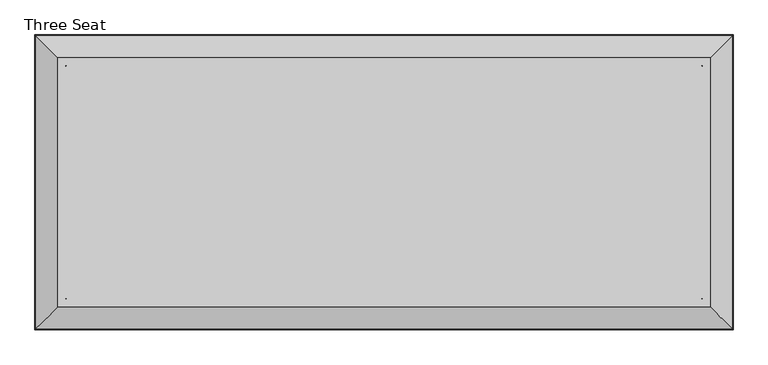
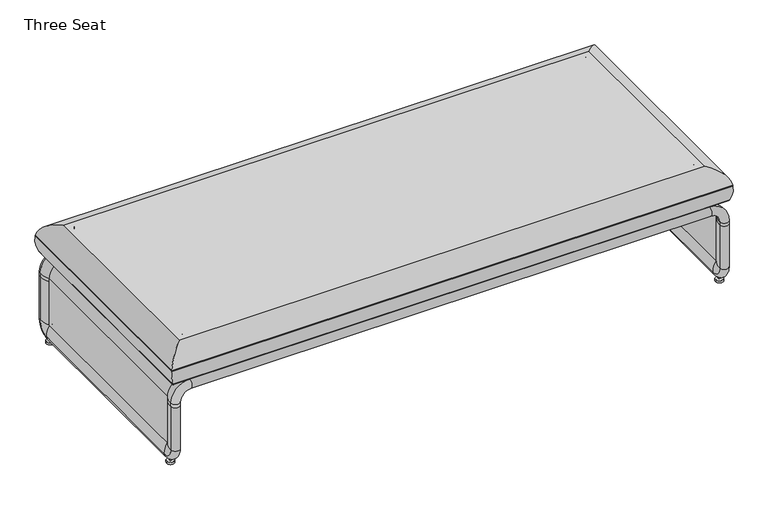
"""IFC4 building model written with IfcOpenShell, lengths in millimetres: furniture geometry, Coalesse_AM_Seating_LoungeChair_Lagunitas_Bench : Three Seat."""

from ifc_helpers import new_model, si_unit, point, frame, frame_2d, origin, origin_with_axes, place, context, project, spatial, polyline, circle_curve, ellipse_curve, trimmed, segment, composite_curve, outline, extrude, source, transform, mapped, element, save
from ifc_brep_helpers import plane_surface, cylinder_surface, revolved_surface, advanced_brep


def three_seat_fe4ea9a4(model_context):
    return source(origin(), model_context, "Body", "SolidModel", [
        advanced_brep(
        [(425.0667098, 331.7027048, 308.3159554), (425.0667098, 331.7027048, 423.1505158), (424.3047098, 331.7027048, 423.1505158), (424.3047098, 331.7027048, 308.3159554), (-1352.2104971, 331.7027048, 423.1505158), (-1352.2104971, 331.7027048, 308.3159554), (-1351.4484971, 331.7027048, 308.3159554), (-1351.4484971, 331.7027048, 423.1505158), (502.9448065, 409.5808014, 313.8220641), (494.5614234, 401.1974183, 308.3159554), (-1421.7052106, 401.1974183, 308.3159554), (-1430.0885937, 409.5808014, 313.8220641), (-1437.7967459, 417.2889536, 366.6638866), (510.6529586, 417.2889536, 366.6638866), (-1437.3399768, 416.8321845, 370.0179265), (510.1961895, 416.8321845, 370.0179265), (-1375.456588, 354.9487957, 423.1505158), (448.3128008, 354.9487957, 423.1505158), (-1352.2104971, 330.9407048, 423.1505158), (-1352.2104971, 330.9407048, 308.3159554), (-1352.2104971, -319.1854727, 423.1505158), (-1352.2104971, -319.1854727, 308.3159554), (-1352.2104971, -318.4234727, 308.3159554), (-1352.2104971, -318.4234727, 423.1505158), (-1421.7052106, -388.6801863, 308.3159554), (-1430.0885937, -397.0635693, 313.8220641), (-1437.7967459, -404.7717215, 366.6638866), (-1437.3399768, -404.3149524, 370.0179265), (-1375.456588, -342.4315637, 423.1505158), (-1351.4484971, -319.1854727, 423.1505158), (-1351.4484971, -319.1854727, 308.3159554), (425.0667098, -319.1854727, 423.1505158), (425.0667098, -319.1854727, 308.3159554), (424.3047098, -319.1854727, 308.3159554), (424.3047098, -319.1854727, 423.1505158), (494.5614234, -388.6801863, 308.3159554), (502.9448065, -397.0635693, 313.8220641), (510.6529586, -404.7717215, 366.6638866), (510.1961895, -404.3149524, 370.0179265), (448.3128008, -342.4315637, 423.1505158), (425.0667098, 330.9407048, 308.3159554), (425.0667098, 330.9407048, 423.1505158), (425.0667098, -318.4234727, 423.1505158), (425.0667098, -318.4234727, 308.3159554)],
        [
            (0, 1),
            (1, 2),
            (2, 3),
            (3, 0),
            (4, 5),
            (5, 6),
            (6, 7),
            (7, 4),
            (8, 9, ellipse_curve(frame((494.5614234, 401.1974183, 317.4511134), z_axis=(-0.7071067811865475, 0.7071067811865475, 0.0), x_axis=(0.7071067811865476, 0.7071067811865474, 0.0)), 12.9190643, 9.135158)),
            (9, 10),
            (10, 11, ellipse_curve(frame((-1421.7052106, 401.1974183, 317.4511134), z_axis=(0.7071067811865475, 0.7071067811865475, 0.0), x_axis=(0.7071067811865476, -0.7071067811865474, 0.0)), 12.9190643, 9.135158)),
            (11, 8),
            (11, 12, ellipse_curve(frame((-1336.0753091, 315.5675168, 354.5191011), z_axis=(0.7071067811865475, 0.7071067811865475, 0.0), x_axis=(0.7071067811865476, -0.7071067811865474, 0.0)), 144.8775104, 102.44387)),
            (12, 13),
            (13, 8, ellipse_curve(frame((408.9315219, 315.5675168, 354.5191011), z_axis=(-0.7071067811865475, 0.7071067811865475, 0.0), x_axis=(0.7071067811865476, 0.7071067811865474, 0.0)), 144.8775104, 102.44387)),
            (12, 14, ellipse_curve(frame((-1336.0753091, 315.5675168, 354.5191011), z_axis=(0.7071067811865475, 0.7071067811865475, 0.0), x_axis=(0.7071067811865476, -0.7071067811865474, 0.0)), 144.8775104, 102.44387)),
            (14, 15),
            (15, 13, ellipse_curve(frame((408.9315219, 315.5675168, 354.5191011), z_axis=(-0.7071067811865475, 0.7071067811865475, 0.0), x_axis=(0.7071067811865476, 0.7071067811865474, 0.0)), 144.8775104, 102.44387)),
            (14, 16, ellipse_curve(frame((-1375.456588, 354.9487957, 360.5465101), z_axis=(0.7071067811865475, 0.7071067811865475, 0.0), x_axis=(0.7071067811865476, -0.7071067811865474, 0.0)), 88.535434, 62.6040057)),
            (16, 17),
            (17, 15, ellipse_curve(frame((448.3128008, 354.9487957, 360.5465101), z_axis=(-0.7071067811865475, 0.7071067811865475, 0.0), x_axis=(0.7071067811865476, 0.7071067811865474, 0.0)), 88.535434, 62.6040057)),
            (4, 18),
            (18, 19),
            (19, 5),
            (20, 21),
            (21, 22),
            (22, 23),
            (23, 20),
            (10, 24),
            (24, 25, ellipse_curve(frame((-1421.7052106, -388.6801863, 317.4511134), z_axis=(-0.7071067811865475, 0.7071067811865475, 0.0), x_axis=(0.7071067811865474, 0.7071067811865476, 0.0)), 12.9190643, 9.135158)),
            (25, 11),
            (25, 26, ellipse_curve(frame((-1336.0753091, -303.0502848, 354.5191011), z_axis=(-0.7071067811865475, 0.7071067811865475, 0.0), x_axis=(0.7071067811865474, 0.7071067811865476, 0.0)), 144.8775104, 102.44387)),
            (26, 12),
            (26, 27, ellipse_curve(frame((-1336.0753091, -303.0502848, 354.5191011), z_axis=(-0.7071067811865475, 0.7071067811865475, 0.0), x_axis=(0.7071067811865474, 0.7071067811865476, 0.0)), 144.8775104, 102.44387)),
            (27, 14),
            (27, 28, ellipse_curve(frame((-1375.456588, -342.4315637, 360.5465101), z_axis=(-0.7071067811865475, 0.7071067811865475, 0.0), x_axis=(0.7071067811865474, 0.7071067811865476, 0.0)), 88.535434, 62.6040057)),
            (28, 16),
            (20, 29),
            (29, 30),
            (30, 21),
            (31, 32),
            (32, 33),
            (33, 34),
            (34, 31),
            (24, 35),
            (35, 36, ellipse_curve(frame((494.5614234, -388.6801863, 317.4511134), z_axis=(-0.7071067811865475, -0.7071067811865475, 0.0), x_axis=(-0.7071067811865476, 0.7071067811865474, 0.0)), 12.9190643, 9.135158)),
            (36, 25),
            (36, 37, ellipse_curve(frame((408.9315219, -303.0502848, 354.5191011), z_axis=(-0.7071067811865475, -0.7071067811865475, 0.0), x_axis=(-0.7071067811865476, 0.7071067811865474, 0.0)), 144.8775104, 102.44387)),
            (37, 26),
            (37, 38, ellipse_curve(frame((408.9315219, -303.0502848, 354.5191011), z_axis=(-0.7071067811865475, -0.7071067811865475, 0.0), x_axis=(-0.7071067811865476, 0.7071067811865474, 0.0)), 144.8775104, 102.44387)),
            (38, 27),
            (38, 39, ellipse_curve(frame((448.3128008, -342.4315637, 360.5465101), z_axis=(-0.7071067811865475, -0.7071067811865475, 0.0), x_axis=(-0.7071067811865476, 0.7071067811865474, 0.0)), 88.535434, 62.6040057)),
            (39, 28),
            (0, 40),
            (40, 41),
            (41, 1),
            (31, 42),
            (42, 43),
            (43, 32),
            (9, 35),
            (3, 40, circle_curve(frame((424.3047098, 330.9407048, 308.3159554), z_axis=(0.0, 0.0, -1.0), x_axis=(1.0, 0.0, 0.0)), 0.762)),
            (19, 6, circle_curve(frame((-1351.4484971, 330.9407048, 308.3159554), z_axis=(0.0, 0.0, -1.0), x_axis=(1.0, 0.0, 0.0)), 0.762)),
            (30, 22, circle_curve(frame((-1351.4484971, -318.4234727, 308.3159554), z_axis=(0.0, 0.0, -1.0), x_axis=(1.0, 0.0, 0.0)), 0.762)),
            (43, 33, circle_curve(frame((424.3047098, -318.4234727, 308.3159554), z_axis=(0.0, 0.0, -1.0), x_axis=(1.0, 0.0, 0.0)), 0.762)),
            (8, 36),
            (13, 37),
            (15, 38),
            (17, 39),
            (7, 18, circle_curve(frame((-1351.4484971, 330.9407048, 423.1505158), z_axis=(0.0, 0.0, 1.0), x_axis=(1.0, 0.0, 0.0)), 0.762)),
            (23, 29, circle_curve(frame((-1351.4484971, -318.4234727, 423.1505158), z_axis=(0.0, 0.0, 1.0), x_axis=(1.0, 0.0, 0.0)), 0.762)),
            (34, 42, circle_curve(frame((424.3047098, -318.4234727, 423.1505158), z_axis=(0.0, 0.0, 1.0), x_axis=(1.0, 0.0, 0.0)), 0.762)),
            (41, 2, circle_curve(frame((424.3047098, 330.9407048, 423.1505158), z_axis=(0.0, 0.0, 1.0), x_axis=(1.0, 0.0, 0.0)), 0.762)),
        ],
        [
            plane_surface(frame((425.0667098, 331.7027048, 423.1505158), z_axis=(0.0, -1.0, 0.0), x_axis=(-1.0, 0.0, 0.0))),
            cylinder_surface(frame((425.0667098, 401.1974183, 317.4511134), z_axis=(1.0, 0.0, 0.0), x_axis=(0.0, -1.0, 0.0)), 9.135158),
            cylinder_surface(frame((425.0667098, 315.5675168, 354.5191011), z_axis=(1.0, 0.0, 0.0), x_axis=(0.0, -1.0, 0.0)), 102.44387),
            cylinder_surface(frame((425.0667098, 354.9487957, 360.5465101), z_axis=(1.0, 0.0, 0.0), x_axis=(0.0, -1.0, 0.0)), 62.6040057),
            plane_surface(frame((-1352.2104971, 331.7027048, 423.1505158), z_axis=(1.0, 0.0, 0.0), x_axis=(0.0, -1.0, 0.0))),
            cylinder_surface(frame((-1421.7052106, 331.7027048, 317.4511134), z_axis=(0.0, 1.0, 0.0), x_axis=(1.0, 0.0, 0.0)), 9.135158),
            cylinder_surface(frame((-1336.0753091, 331.7027048, 354.5191011), z_axis=(0.0, 1.0, 0.0), x_axis=(1.0, 0.0, 0.0)), 102.44387),
            cylinder_surface(frame((-1375.456588, 331.7027048, 360.5465101), z_axis=(0.0, 1.0, 0.0), x_axis=(1.0, 0.0, 0.0)), 62.6040057),
            plane_surface(frame((-1352.2104971, -319.1854727, 423.1505158), z_axis=(0.0, 1.0, 0.0), x_axis=(1.0, 0.0, 0.0))),
            cylinder_surface(frame((-1352.2104971, -388.6801863, 317.4511134), z_axis=(-1.0, 0.0, 0.0), x_axis=(0.0, 1.0, 0.0)), 9.135158),
            cylinder_surface(frame((-1352.2104971, -303.0502848, 354.5191011), z_axis=(-1.0, 0.0, 0.0), x_axis=(0.0, 1.0, 0.0)), 102.44387),
            cylinder_surface(frame((-1352.2104971, -342.4315637, 360.5465101), z_axis=(-1.0, 0.0, 0.0), x_axis=(0.0, 1.0, 0.0)), 62.6040057),
            plane_surface(frame((425.0667098, -319.1854727, 423.1505158), z_axis=(-1.0, 0.0, 0.0), x_axis=(0.0, 1.0, 0.0))),
            plane_surface(frame((425.0667098, -319.1854727, 308.3159554), z_axis=(0.0, 0.0, -1.0), x_axis=(0.0, 1.0, 0.0))),
            cylinder_surface(frame((494.5614234, -319.1854727, 317.4511134), z_axis=(0.0, -1.0, 0.0), x_axis=(-1.0, 0.0, 0.0)), 9.135158),
            cylinder_surface(frame((408.9315219, -319.1854727, 354.5191011), z_axis=(0.0, -1.0, 0.0), x_axis=(-1.0, 0.0, 0.0)), 102.44387),
            cylinder_surface(frame((448.3128008, -319.1854727, 360.5465101), z_axis=(0.0, -1.0, 0.0), x_axis=(-1.0, 0.0, 0.0)), 62.6040057),
            plane_surface(frame((448.3128008, -342.4315637, 423.1505158), z_axis=(0.0, 0.0, 1.0), x_axis=(0.0, 1.0, 0.0))),
            cylinder_surface(frame((-1351.4484971, 330.9407048, 308.3159554), z_axis=(0.0, 0.0, 1.0), x_axis=(1.0, 0.0, 0.0)), 0.762),
            cylinder_surface(frame((-1351.4484971, -318.4234727, 308.3159554), z_axis=(0.0, 0.0, 1.0), x_axis=(1.0, 0.0, 0.0)), 0.762),
            cylinder_surface(frame((424.3047098, -318.4234727, 308.3159554), z_axis=(0.0, 0.0, 1.0), x_axis=(1.0, 0.0, 0.0)), 0.762),
            cylinder_surface(frame((424.3047098, 330.9407048, 308.3159554), z_axis=(0.0, 0.0, 1.0), x_axis=(1.0, 0.0, 0.0)), 0.762),
        ],
        [
            (0, [[1, 2, 3, 4]]),
            (0, [[5, 6, 7, 8]]),
            (1, [[9, 10, 11, 12]]),
            (2, [[-12, 13, 14, 15]]),
            (2, [[-14, 16, 17, 18]]),
            (3, [[-17, 19, 20, 21]]),
            (4, [[-5, 22, 23, 24]]),
            (4, [[25, 26, 27, 28]]),
            (5, [[-11, 29, 30, 31]]),
            (6, [[-13, -31, 32, 33]]),
            (6, [[-16, -33, 34, 35]]),
            (7, [[-19, -35, 36, 37]]),
            (8, [[-25, 38, 39, 40]]),
            (8, [[41, 42, 43, 44]]),
            (9, [[-30, 45, 46, 47]]),
            (10, [[-32, -47, 48, 49]]),
            (10, [[-34, -49, 50, 51]]),
            (11, [[-36, -51, 52, 53]]),
            (12, [[-1, 54, 55, 56]]),
            (12, [[-41, 57, 58, 59]]),
            (13, [[-10, 60, -45, -29], [-4, 61, -54], [-24, 62, -6], [-40, 63, -26], [-59, 64, -42]]),
            (14, [[-9, 65, -46, -60]]),
            (15, [[-15, 66, -48, -65]]),
            (15, [[-18, 67, -50, -66]]),
            (16, [[-21, 68, -52, -67]]),
            (17, [[-20, -37, -53, -68], [-8, 69, -22], [-28, 70, -38], [-44, 71, -57], [-56, 72, -2]]),
            (18, [[-69, -7, -62, -23]]),
            (19, [[-70, -27, -63, -39]]),
            (20, [[-71, -43, -64, -58]]),
            (21, [[-72, -55, -61, -3]]),
        ],
    ),
        extrude(outline(composite_curve([segment(trimmed(circle_curve(frame_2d((490.1435798, -358.9512574)), 13.208), [point((503.3515798, -358.9512574))], [point((476.9355798, -358.9512574))], False, "CARTESIAN"), True, "CONTINUOUS"), segment(trimmed(circle_curve(frame_2d((490.1435798, -358.9512574)), 13.208), [point((476.9355798, -358.9512574))], [point((503.3515798, -358.9512574))], False, "CARTESIAN"), True, "CONTINUOUS")], self_intersect=False)), origin_with_axes(), (0.0, 0.0, 1.0), 7.9249983),
        extrude(outline(composite_curve([segment(trimmed(circle_curve(frame_2d((489.2788729, 366.0094457)), 13.208), [point((502.4868729, 366.0094457))], [point((476.0708729, 366.0094457))], False, "CARTESIAN"), True, "CONTINUOUS"), segment(trimmed(circle_curve(frame_2d((489.2788729, 366.0094457)), 13.208), [point((476.0708729, 366.0094457))], [point((502.4868729, 366.0094457))], False, "CARTESIAN"), True, "CONTINUOUS")], self_intersect=False)), origin_with_axes(), (0.0, 0.0, 1.0), 7.9249983),
        extrude(outline(composite_curve([segment(trimmed(circle_curve(frame_2d((490.0132668, 365.9413212)), 3.8556407), [point((493.8689075, 365.9413212))], [point((486.157626, 365.9413212))], False, "CARTESIAN"), True, "CONTINUOUS"), segment(trimmed(circle_curve(frame_2d((490.0132668, 365.9413212)), 3.8556407), [point((486.157626, 365.9413212))], [point((493.8689075, 365.9413212))], False, "CARTESIAN"), True, "CONTINUOUS")], self_intersect=False)), frame((0.0, 0.0, 7.9249983), z_axis=(0.0, 0.0, 1.0), x_axis=(1.0, 0.0, 0.0)), (0.0, 0.0, 1.0), 41.9053919),
        extrude(outline(composite_curve([segment(trimmed(circle_curve(frame_2d((490.0132668, -357.9586788)), 3.8556407), [point((493.8689075, -357.9586788))], [point((486.157626, -357.9586788))], False, "CARTESIAN"), True, "CONTINUOUS"), segment(trimmed(circle_curve(frame_2d((490.0132668, -357.9586788)), 3.8556407), [point((486.157626, -357.9586788))], [point((493.8689075, -357.9586788))], False, "CARTESIAN"), True, "CONTINUOUS")], self_intersect=False)), frame((0.0, 0.0, 7.9249983), z_axis=(0.0, 0.0, 1.0), x_axis=(1.0, 0.0, 0.0)), (0.0, 0.0, 1.0), 41.9053919),
        advanced_brep(
        [(-1364.817987, 361.2223108, 294.5571477), (-1364.817987, -349.3993584, 294.5571477), (439.1589928, -349.3993584, 294.5571477), (439.1589928, 361.2223108, 294.5571477), (439.1589928, 399.3471866, 304.6510848), (-1364.817987, 399.3471866, 304.6510848), (439.1589928, 399.3471866, 273.9829819), (-1364.817987, 399.3471866, 273.9829819), (439.1589928, 361.2223108, 284.076919), (-1364.817987, 361.2223108, 284.076919), (439.1589928, -349.3993584, 284.076919), (-1364.817987, -349.3993584, 284.076919), (439.1589928, -387.5242343, 273.9829819), (-1364.817987, -387.5242343, 273.9829819), (439.1589928, -387.5242343, 304.6510848), (-1364.817987, -387.5242343, 304.6510848), (-1421.0182157, -349.3993584, 227.5269902), (-1421.0182157, -349.3993584, 238.356919), (-1421.0182157, 361.2223108, 238.356919), (-1421.0182157, 361.2223108, 227.5269902), (-1421.0182157, 361.2223108, 68.7769902), (-1421.0182157, 359.9523108, 67.5069902), (-1421.0182157, -348.1293584, 67.5069902), (-1421.0182157, -349.3993584, 68.7769902), (-1431.1121528, 399.3471866, 238.356919), (-1431.1121528, 399.3471866, 227.5269902), (-1400.4440499, 399.3471866, 238.356919), (-1400.4440499, 399.3471866, 227.5269902), (-1410.537987, 361.2223108, 238.356919), (-1410.537987, 361.2223108, 227.5269902), (-1410.537987, -349.3993584, 238.356919), (-1410.537987, -349.3993584, 227.5269902), (-1410.537987, -349.3993584, 68.7769902), (-1410.537987, -348.1293832, 67.5069902), (-1410.537987, 359.9523108, 67.5069902), (-1410.537987, 361.2223108, 68.7769646), (-1400.4440499, -387.5242343, 238.356919), (-1400.4440499, -387.5242343, 227.5269902), (-1431.1121528, -387.5242343, 238.356919), (-1431.1121528, -387.5242343, 227.5269902), (-1400.4440499, -387.5242343, 68.7769902), (-1431.1121528, -387.5242343, 68.7769902), (-1400.4440499, -348.1293584, 29.3821143), (-1431.1121528, -348.1293584, 29.3821143), (-1400.4440499, 359.9523108, 29.3821143), (-1431.1121528, 359.9523108, 29.3821143), (-1400.4440499, 399.3471866, 68.7769902), (-1431.1121528, 399.3471866, 68.7769902), (495.3592216, -349.3993584, 238.356919), (495.3592216, 361.2223108, 238.356919), (505.4531586, 399.3471866, 238.356919), (474.7850557, 399.3471866, 238.356919), (484.8789928, 361.2223108, 238.356919), (484.8789928, -349.3993584, 238.356919), (474.7850557, -387.5242343, 238.356919), (505.4531586, -387.5242343, 238.356919), (495.3592216, -349.3993584, 227.5269902), (495.3592216, -349.3993584, 68.7769902), (495.3592216, -348.1293584, 67.5069902), (495.3592216, 359.9523108, 67.5069902), (495.3592216, 361.2223108, 68.7769902), (495.3592216, 361.2223108, 227.5269902), (505.4531586, 399.3471866, 227.5269902), (474.7850557, 399.3471866, 227.5269902), (484.8789928, 361.2223108, 227.5269902), (484.8789928, 361.2223108, 68.7769902), (484.8789928, 359.9523108, 67.5069902), (484.8789928, -348.1293584, 67.5069902), (484.8789928, -349.3993584, 68.7769902), (484.8789928, -349.3993584, 227.5269902), (474.7850557, -387.5242343, 227.5269902), (505.4531586, -387.5242343, 227.5269902), (474.7850557, -387.5242343, 68.7769902), (505.4531586, -387.5242343, 68.7769902), (474.7850557, -348.1293584, 29.3821143), (505.4531586, -348.1293584, 29.3821143), (474.7850557, 359.9523108, 29.3821143), (505.4531586, 359.9523108, 29.3821143), (474.7850557, 399.3471866, 68.7769902), (505.4531586, 399.3471866, 68.7769902)],
        [
            (0, 1),
            (1, 2),
            (2, 3),
            (3, 0),
            (3, 4, circle_curve(frame((439.1589928, 399.022058, 228.8331589), z_axis=(-1.0, 0.0, 0.0), x_axis=(0.0, 0.0, 1.0)), 75.818623)),
            (4, 5),
            (5, 0, circle_curve(frame((-1364.817987, 399.022058, 228.8331589), z_axis=(1.0, 0.0, 0.0), x_axis=(0.0, 0.0, 1.0)), 75.818623)),
            (4, 6, circle_curve(frame((439.1589928, 399.2814298, 289.3170334), z_axis=(-1.0, 0.0, 0.0), x_axis=(0.0, 0.0, 1.0)), 15.3341924)),
            (6, 7),
            (7, 5, circle_curve(frame((-1364.817987, 399.2814298, 289.3170334), z_axis=(1.0, 0.0, 0.0), x_axis=(0.0, 0.0, 1.0)), 15.3341924)),
            (6, 8, circle_curve(frame((439.1589928, 399.022058, 349.8009078), z_axis=(-1.0, 0.0, 0.0), x_axis=(0.0, 0.0, 1.0)), 75.818623)),
            (8, 9),
            (9, 7, circle_curve(frame((-1364.817987, 399.022058, 349.8009078), z_axis=(1.0, 0.0, 0.0), x_axis=(0.0, 0.0, 1.0)), 75.818623)),
            (8, 10),
            (10, 11),
            (11, 9),
            (10, 12, circle_curve(frame((439.1589928, -387.1991056, 349.8009078), z_axis=(-1.0, 0.0, 0.0), x_axis=(0.0, 0.0, 1.0)), 75.818623)),
            (12, 13),
            (13, 11, circle_curve(frame((-1364.817987, -387.1991056, 349.8009078), z_axis=(1.0, 0.0, 0.0), x_axis=(0.0, 0.0, 1.0)), 75.818623)),
            (12, 14, circle_curve(frame((439.1589928, -387.4584775, 289.3170334), z_axis=(-1.0, 0.0, 0.0), x_axis=(0.0, 0.0, 1.0)), 15.3341924)),
            (14, 15),
            (15, 13, circle_curve(frame((-1364.817987, -387.4584775, 289.3170334), z_axis=(1.0, 0.0, 0.0), x_axis=(0.0, 0.0, 1.0)), 15.3341924)),
            (1, 15, circle_curve(frame((-1364.817987, -387.1991056, 228.8331589), z_axis=(1.0, 0.0, 0.0), x_axis=(0.0, 0.0, 1.0)), 75.818623)),
            (14, 2, circle_curve(frame((439.1589928, -387.1991056, 228.8331589), z_axis=(-1.0, 0.0, 0.0), x_axis=(0.0, 0.0, 1.0)), 75.818623)),
            (16, 17),
            (17, 18),
            (18, 19),
            (19, 20),
            (20, 21, circle_curve(frame((-1421.0182157, 359.9523108, 68.7769902), z_axis=(-1.0, 0.0, 0.0), x_axis=(0.0, 0.0, -1.0)), 1.27)),
            (21, 22),
            (22, 23, circle_curve(frame((-1421.0182157, -348.1293584, 68.7769902), z_axis=(-1.0, 0.0, 0.0), x_axis=(0.0, -1.0, 0.0)), 1.27)),
            (23, 16),
            (18, 24, circle_curve(frame((-1355.2942269, 399.022058, 238.356919), z_axis=(0.0, 0.0, -1.0), x_axis=(-1.0, 0.0, 0.0)), 75.818623)),
            (24, 25),
            (25, 19, circle_curve(frame((-1355.2942269, 399.022058, 227.5269902), z_axis=(0.0, 0.0, 1.0), x_axis=(-1.0, 0.0, 0.0)), 75.818623)),
            (24, 26, circle_curve(frame((-1415.7781014, 399.2814298, 238.356919), z_axis=(0.0, 0.0, -1.0), x_axis=(-1.0, 0.0, 0.0)), 15.3341924)),
            (26, 27),
            (27, 25, circle_curve(frame((-1415.7781014, 399.2814298, 227.5269902), z_axis=(0.0, 0.0, 1.0), x_axis=(-1.0, 0.0, 0.0)), 15.3341924)),
            (26, 28, circle_curve(frame((-1476.2619758, 399.022058, 238.356919), z_axis=(0.0, 0.0, -1.0), x_axis=(-1.0, 0.0, 0.0)), 75.818623)),
            (28, 29),
            (29, 27, circle_curve(frame((-1476.2619758, 399.022058, 227.5269902), z_axis=(0.0, 0.0, 1.0), x_axis=(-1.0, 0.0, 0.0)), 75.818623)),
            (28, 30),
            (30, 31),
            (31, 32),
            (32, 33, circle_curve(frame((-1410.537987, -348.1293584, 68.7769902), z_axis=(1.0, 0.0, 0.0), x_axis=(0.0, -1.0, 0.0)), 1.27)),
            (33, 34),
            (34, 35, circle_curve(frame((-1410.537987, 359.9523108, 68.7769902), z_axis=(1.0, 0.0, 0.0), x_axis=(0.0, 0.0, -1.0)), 1.27)),
            (35, 29),
            (30, 36, circle_curve(frame((-1476.2619758, -387.1991056, 238.356919), z_axis=(0.0, 0.0, -1.0), x_axis=(-1.0, 0.0, 0.0)), 75.818623)),
            (36, 37),
            (37, 31, circle_curve(frame((-1476.2619758, -387.1991056, 227.5269902), z_axis=(0.0, 0.0, 1.0), x_axis=(-1.0, 0.0, 0.0)), 75.818623)),
            (36, 38, circle_curve(frame((-1415.7781014, -387.4584775, 238.356919), z_axis=(0.0, 0.0, -1.0), x_axis=(-1.0, 0.0, 0.0)), 15.3341924)),
            (38, 39),
            (39, 37, circle_curve(frame((-1415.7781014, -387.4584775, 227.5269902), z_axis=(0.0, 0.0, 1.0), x_axis=(-1.0, 0.0, 0.0)), 15.3341924)),
            (16, 39, circle_curve(frame((-1355.2942269, -387.1991056, 227.5269902), z_axis=(0.0, 0.0, 1.0), x_axis=(-1.0, 0.0, 0.0)), 75.818623)),
            (38, 17, circle_curve(frame((-1355.2942269, -387.1991056, 238.356919), z_axis=(0.0, 0.0, -1.0), x_axis=(-1.0, 0.0, 0.0)), 75.818623)),
            (0, 18, circle_curve(frame((-1364.817987, 361.2223108, 238.356919), z_axis=(0.0, -1.0, 0.0), x_axis=(-1.0, 0.0, 0.0)), 56.2002288)),
            (17, 1, circle_curve(frame((-1364.817987, -349.3993584, 238.356919), z_axis=(0.0, 1.0, 0.0), x_axis=(-1.0, 0.0, 0.0)), 56.2002288)),
            (5, 24, circle_curve(frame((-1364.817987, 399.3471866, 238.356919), z_axis=(0.0, -1.0, 0.0), x_axis=(-1.0, 0.0, 0.0)), 66.2941658)),
            (7, 26, circle_curve(frame((-1364.817987, 399.3471866, 238.356919), z_axis=(0.0, -1.0, 0.0), x_axis=(-1.0, 0.0, 0.0)), 35.6260629)),
            (9, 28, circle_curve(frame((-1364.817987, 361.2223108, 238.356919), z_axis=(0.0, -1.0, 0.0), x_axis=(-1.0, 0.0, 0.0)), 45.72)),
            (11, 30, circle_curve(frame((-1364.817987, -349.3993584, 238.356919), z_axis=(0.0, -1.0, 0.0), x_axis=(-1.0, 0.0, 0.0)), 45.72)),
            (13, 36, circle_curve(frame((-1364.817987, -387.5242343, 238.356919), z_axis=(0.0, -1.0, 0.0), x_axis=(-1.0, 0.0, 0.0)), 35.6260629)),
            (15, 38, circle_curve(frame((-1364.817987, -387.5242343, 238.356919), z_axis=(0.0, -1.0, 0.0), x_axis=(-1.0, 0.0, 0.0)), 66.2941658)),
            (37, 40),
            (40, 32, circle_curve(frame((-1476.2619758, -387.1991056, 68.7769902), z_axis=(0.0, 0.0, 1.0), x_axis=(1.0, 0.0, 0.0)), 75.818623)),
            (23, 41, circle_curve(frame((-1355.2942269, -387.1991056, 68.7769902), z_axis=(0.0, 0.0, 1.0), x_axis=(1.0, 0.0, 0.0)), 75.818623)),
            (41, 39),
            (41, 40, circle_curve(frame((-1415.7781014, -387.4584775, 68.7769902), z_axis=(0.0, 0.0, 1.0), x_axis=(1.0, 0.0, 0.0)), 15.3341924)),
            (40, 42, circle_curve(frame((-1400.4440499, -348.1293584, 68.7769902), z_axis=(1.0, 0.0, 0.0), x_axis=(0.0, -1.0, 0.0)), 39.3948758)),
            (42, 33, circle_curve(frame((-1476.2619758, -348.1293584, 29.707243), z_axis=(0.0, -1.0, 0.0), x_axis=(1.0, 0.0, 0.0)), 75.818623)),
            (22, 43, circle_curve(frame((-1355.2942269, -348.1293584, 29.707243), z_axis=(0.0, -1.0, 0.0), x_axis=(1.0, 0.0, 0.0)), 75.818623)),
            (43, 41, circle_curve(frame((-1431.1121528, -348.1293584, 68.7769902), z_axis=(-1.0, 0.0, 0.0), x_axis=(0.0, -1.0, 0.0)), 39.3948758)),
            (43, 42, circle_curve(frame((-1415.7781014, -348.1293584, 29.4478711), z_axis=(0.0, -1.0, 0.0), x_axis=(1.0, 0.0, 0.0)), 15.3341924)),
            (42, 44),
            (44, 34, circle_curve(frame((-1476.2619758, 359.9523108, 29.707243), z_axis=(0.0, -1.0, 0.0), x_axis=(1.0, 0.0, 0.0)), 75.818623)),
            (21, 45, circle_curve(frame((-1355.2942269, 359.9523108, 29.707243), z_axis=(0.0, -1.0, 0.0), x_axis=(1.0, 0.0, 0.0)), 75.818623)),
            (45, 43),
            (45, 44, circle_curve(frame((-1415.7781014, 359.9523108, 29.4478711), z_axis=(0.0, -1.0, 0.0), x_axis=(1.0, 0.0, 0.0)), 15.3341924)),
            (44, 46, circle_curve(frame((-1400.4440499, 359.9523108, 68.7769902), z_axis=(1.0, 0.0, 0.0), x_axis=(0.0, 0.0, -1.0)), 39.3948758)),
            (46, 35, circle_curve(frame((-1476.2619758, 399.022058, 68.7769902), z_axis=(0.0, 0.0, -1.0), x_axis=(1.0, 0.0, 0.0)), 75.818623)),
            (20, 47, circle_curve(frame((-1355.2942269, 399.022058, 68.7769902), z_axis=(0.0, 0.0, -1.0), x_axis=(1.0, 0.0, 0.0)), 75.818623)),
            (47, 45, circle_curve(frame((-1431.1121528, 359.9523108, 68.7769902), z_axis=(-1.0, 0.0, 0.0), x_axis=(0.0, 0.0, -1.0)), 39.3948758)),
            (47, 46, circle_curve(frame((-1415.7781014, 399.2814298, 68.7769902), z_axis=(0.0, 0.0, -1.0), x_axis=(1.0, 0.0, 0.0)), 15.3341924)),
            (46, 27),
            (25, 47),
            (2, 48, circle_curve(frame((439.1589928, -349.3993584, 238.356919), z_axis=(0.0, 1.0, 0.0), x_axis=(0.0, 0.0, 1.0)), 56.2002288)),
            (48, 49),
            (49, 3, circle_curve(frame((439.1589928, 361.2223108, 238.356919), z_axis=(0.0, -1.0, 0.0), x_axis=(0.0, 0.0, 1.0)), 56.2002288)),
            (49, 50, circle_curve(frame((429.6352328, 399.022058, 238.356919), z_axis=(0.0, 0.0, 1.0), x_axis=(1.0, 0.0, 0.0)), 75.818623)),
            (50, 4, circle_curve(frame((439.1589928, 399.3471866, 238.356919), z_axis=(0.0, -1.0, 0.0), x_axis=(0.0, 0.0, 1.0)), 66.2941658)),
            (50, 51, circle_curve(frame((490.1191072, 399.2814298, 238.356919), z_axis=(0.0, 0.0, 1.0), x_axis=(1.0, 0.0, 0.0)), 15.3341924)),
            (51, 6, circle_curve(frame((439.1589928, 399.3471866, 238.356919), z_axis=(0.0, -1.0, 0.0), x_axis=(0.0, 0.0, 1.0)), 35.6260629)),
            (51, 52, circle_curve(frame((550.6029816, 399.022058, 238.356919), z_axis=(0.0, 0.0, 1.0), x_axis=(1.0, 0.0, 0.0)), 75.818623)),
            (52, 8, circle_curve(frame((439.1589928, 361.2223108, 238.356919), z_axis=(0.0, -1.0, 0.0), x_axis=(0.0, 0.0, 1.0)), 45.72)),
            (52, 53),
            (53, 10, circle_curve(frame((439.1589928, -349.3993584, 238.356919), z_axis=(0.0, -1.0, 0.0), x_axis=(0.0, 0.0, 1.0)), 45.72)),
            (53, 54, circle_curve(frame((550.6029816, -387.1991056, 238.356919), z_axis=(0.0, 0.0, 1.0), x_axis=(1.0, 0.0, 0.0)), 75.818623)),
            (54, 12, circle_curve(frame((439.1589928, -387.5242343, 238.356919), z_axis=(0.0, -1.0, 0.0), x_axis=(0.0, 0.0, 1.0)), 35.6260629)),
            (54, 55, circle_curve(frame((490.1191072, -387.4584775, 238.356919), z_axis=(0.0, 0.0, 1.0), x_axis=(1.0, 0.0, 0.0)), 15.3341924)),
            (55, 14, circle_curve(frame((439.1589928, -387.5242343, 238.356919), z_axis=(0.0, -1.0, 0.0), x_axis=(0.0, 0.0, 1.0)), 66.2941658)),
            (55, 48, circle_curve(frame((429.6352328, -387.1991056, 238.356919), z_axis=(0.0, 0.0, 1.0), x_axis=(1.0, 0.0, 0.0)), 75.818623)),
            (48, 56),
            (56, 57),
            (57, 58, circle_curve(frame((495.3592216, -348.1293584, 68.7769902), z_axis=(1.0, 0.0, 0.0), x_axis=(0.0, -1.0, 0.0)), 1.27)),
            (58, 59),
            (59, 60, circle_curve(frame((495.3592216, 359.9523108, 68.7769902), z_axis=(1.0, 0.0, 0.0), x_axis=(0.0, 0.0, -1.0)), 1.27)),
            (60, 61),
            (61, 49),
            (61, 62, circle_curve(frame((429.6352328, 399.022058, 227.5269902), z_axis=(0.0, 0.0, 1.0), x_axis=(1.0, 0.0, 0.0)), 75.818623)),
            (62, 50),
            (62, 63, circle_curve(frame((490.1191072, 399.2814298, 227.5269902), z_axis=(0.0, 0.0, 1.0), x_axis=(1.0, 0.0, 0.0)), 15.3341924)),
            (63, 51),
            (63, 64, circle_curve(frame((550.6029816, 399.022058, 227.5269902), z_axis=(0.0, 0.0, 1.0), x_axis=(1.0, 0.0, 0.0)), 75.818623)),
            (64, 52),
            (64, 65),
            (65, 66, circle_curve(frame((484.8789928, 359.9523108, 68.7769902), z_axis=(-1.0, 0.0, 0.0), x_axis=(0.0, 0.0, -1.0)), 1.27)),
            (66, 67),
            (67, 68, circle_curve(frame((484.8789928, -348.1293584, 68.7769902), z_axis=(-1.0, 0.0, 0.0), x_axis=(0.0, -1.0, 0.0)), 1.27)),
            (68, 69),
            (69, 53),
            (69, 70, circle_curve(frame((550.6029816, -387.1991056, 227.5269902), z_axis=(0.0, 0.0, 1.0), x_axis=(1.0, 0.0, 0.0)), 75.818623)),
            (70, 54),
            (70, 71, circle_curve(frame((490.1191072, -387.4584775, 227.5269902), z_axis=(0.0, 0.0, 1.0), x_axis=(1.0, 0.0, 0.0)), 15.3341924)),
            (71, 55),
            (71, 56, circle_curve(frame((429.6352328, -387.1991056, 227.5269902), z_axis=(0.0, 0.0, 1.0), x_axis=(1.0, 0.0, 0.0)), 75.818623)),
            (68, 72, circle_curve(frame((550.6029816, -387.1991056, 68.7769902), z_axis=(0.0, 0.0, 1.0), x_axis=(-1.0, 0.0, 0.0)), 75.818623)),
            (72, 70),
            (71, 73),
            (73, 57, circle_curve(frame((429.6352328, -387.1991056, 68.7769902), z_axis=(0.0, 0.0, 1.0), x_axis=(-1.0, 0.0, 0.0)), 75.818623)),
            (72, 73, circle_curve(frame((490.1191072, -387.4584775, 68.7769902), z_axis=(0.0, 0.0, 1.0), x_axis=(-1.0, 0.0, 0.0)), 15.3341924)),
            (67, 74, circle_curve(frame((550.6029816, -348.1293584, 29.707243), z_axis=(0.0, -1.0, 0.0), x_axis=(-1.0, 0.0, 0.0)), 75.818623)),
            (74, 72, circle_curve(frame((474.7850557, -348.1293584, 68.7769902), z_axis=(-1.0, 0.0, 0.0), x_axis=(0.0, -1.0, 0.0)), 39.3948758)),
            (73, 75, circle_curve(frame((505.4531586, -348.1293584, 68.7769902), z_axis=(1.0, 0.0, 0.0), x_axis=(0.0, -1.0, 0.0)), 39.3948758)),
            (75, 58, circle_curve(frame((429.6352328, -348.1293584, 29.707243), z_axis=(0.0, -1.0, 0.0), x_axis=(-1.0, 0.0, 0.0)), 75.818623)),
            (74, 75, circle_curve(frame((490.1191072, -348.1293584, 29.4478711), z_axis=(0.0, -1.0, 0.0), x_axis=(-1.0, 0.0, 0.0)), 15.3341924)),
            (66, 76, circle_curve(frame((550.6029816, 359.9523108, 29.707243), z_axis=(0.0, -1.0, 0.0), x_axis=(-1.0, 0.0, 0.0)), 75.818623)),
            (76, 74),
            (75, 77),
            (77, 59, circle_curve(frame((429.6352328, 359.9523108, 29.707243), z_axis=(0.0, -1.0, 0.0), x_axis=(-1.0, 0.0, 0.0)), 75.818623)),
            (76, 77, circle_curve(frame((490.1191072, 359.9523108, 29.4478711), z_axis=(0.0, -1.0, 0.0), x_axis=(-1.0, 0.0, 0.0)), 15.3341924)),
            (65, 78, circle_curve(frame((550.6029816, 399.022058, 68.7769902), z_axis=(0.0, 0.0, -1.0), x_axis=(-1.0, 0.0, 0.0)), 75.818623)),
            (78, 76, circle_curve(frame((474.7850557, 359.9523108, 68.7769902), z_axis=(-1.0, 0.0, 0.0), x_axis=(0.0, 0.0, -1.0)), 39.3948758)),
            (77, 79, circle_curve(frame((505.4531586, 359.9523108, 68.7769902), z_axis=(1.0, 0.0, 0.0), x_axis=(0.0, 0.0, -1.0)), 39.3948758)),
            (79, 60, circle_curve(frame((429.6352328, 399.022058, 68.7769902), z_axis=(0.0, 0.0, -1.0), x_axis=(-1.0, 0.0, 0.0)), 75.818623)),
            (78, 79, circle_curve(frame((490.1191072, 399.2814298, 68.7769902), z_axis=(0.0, 0.0, -1.0), x_axis=(-1.0, 0.0, 0.0)), 15.3341924)),
            (63, 78),
            (79, 62),
        ],
        [
            plane_surface(frame((-1364.817987, -349.3993584, 294.5571477), z_axis=(0.0, 0.0, 1.0), x_axis=(1.0, 0.0, 0.0))),
            cylinder_surface(frame((-1364.817987, 399.022058, 228.8331589), z_axis=(-1.0, 0.0, 0.0), x_axis=(0.0, 0.0, 1.0)), 75.818623),
            cylinder_surface(frame((-1364.817987, 399.2814298, 289.3170334), z_axis=(-1.0, 0.0, 0.0), x_axis=(0.0, 0.0, 1.0)), 15.3341924),
            cylinder_surface(frame((-1364.817987, 399.022058, 349.8009078), z_axis=(-1.0, 0.0, 0.0), x_axis=(0.0, 0.0, 1.0)), 75.818623),
            plane_surface(frame((-1364.817987, 361.2223108, 284.076919), z_axis=(0.0, 0.0, -1.0), x_axis=(1.0, 0.0, 0.0))),
            cylinder_surface(frame((-1364.817987, -387.1991056, 349.8009078), z_axis=(-1.0, 0.0, 0.0), x_axis=(0.0, 0.0, 1.0)), 75.818623),
            cylinder_surface(frame((-1364.817987, -387.4584775, 289.3170334), z_axis=(-1.0, 0.0, 0.0), x_axis=(0.0, 0.0, 1.0)), 15.3341924),
            cylinder_surface(frame((-1364.817987, -387.1991056, 228.8331589), z_axis=(-1.0, 0.0, 0.0), x_axis=(0.0, 0.0, 1.0)), 75.818623),
            plane_surface(frame((-1421.0182157, -349.3993584, 227.5269902), z_axis=(-1.0, 0.0, 0.0), x_axis=(0.0, 0.0, 1.0))),
            cylinder_surface(frame((-1355.2942269, 399.022058, 227.5269902), z_axis=(0.0, 0.0, -1.0), x_axis=(-1.0, 0.0, 0.0)), 75.818623),
            cylinder_surface(frame((-1415.7781014, 399.2814298, 227.5269902), z_axis=(0.0, 0.0, -1.0), x_axis=(-1.0, 0.0, 0.0)), 15.3341924),
            cylinder_surface(frame((-1476.2619758, 399.022058, 227.5269902), z_axis=(0.0, 0.0, -1.0), x_axis=(-1.0, 0.0, 0.0)), 75.818623),
            plane_surface(frame((-1410.537987, 361.2223108, 227.5269902), z_axis=(1.0, 0.0, 0.0), x_axis=(0.0, 0.0, 1.0))),
            cylinder_surface(frame((-1476.2619758, -387.1991056, 227.5269902), z_axis=(0.0, 0.0, -1.0), x_axis=(-1.0, 0.0, 0.0)), 75.818623),
            cylinder_surface(frame((-1415.7781014, -387.4584775, 227.5269902), z_axis=(0.0, 0.0, -1.0), x_axis=(-1.0, 0.0, 0.0)), 15.3341924),
            cylinder_surface(frame((-1355.2942269, -387.1991056, 227.5269902), z_axis=(0.0, 0.0, -1.0), x_axis=(-1.0, 0.0, 0.0)), 75.818623),
            cylinder_surface(frame((-1364.817987, 450.8524852, 238.356919), z_axis=(0.0, 1.0, 0.0), x_axis=(-1.0, 0.0, 0.0)), 56.2002288),
            revolved_surface(trimmed(ellipse_curve(frame((-1355.2942269, 399.022058, 238.356919), z_axis=(0.0, 0.0, -1.0), x_axis=(-1.0, 0.0, 0.0)), 75.818623, 75.818623), [point((-1421.0182157, 361.2223108, 238.356919))], [point((-1431.1121528, 399.3471866, 238.356919))], True, "CARTESIAN"), (-1364.817987, 450.8524852, 238.356919), (0.0, 1.0, 0.0)),
            revolved_surface(trimmed(ellipse_curve(frame((-1415.7781014, 399.2814298, 238.356919), z_axis=(0.0, 0.0, -1.0), x_axis=(-1.0, 0.0, 0.0)), 15.3341924, 15.3341924), [point((-1431.1121528, 399.3471866, 238.356919))], [point((-1400.4440499, 399.3471866, 238.356919))], True, "CARTESIAN"), (-1364.817987, 450.8524852, 238.356919), (0.0, 1.0, 0.0)),
            revolved_surface(trimmed(ellipse_curve(frame((-1476.2619758, 399.022058, 238.356919), z_axis=(0.0, 0.0, -1.0), x_axis=(-1.0, 0.0, 0.0)), 75.818623, 75.818623), [point((-1400.4440499, 399.3471866, 238.356919))], [point((-1410.537987, 361.2223108, 238.356919))], True, "CARTESIAN"), (-1364.817987, 450.8524852, 238.356919), (0.0, 1.0, 0.0)),
            revolved_surface(polyline([(-1410.537987, 361.2223108, 238.356919), (-1410.537987, -349.39935840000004, 238.356919)]), (-1364.817987, 450.8524852, 238.356919), (0.0, 1.0, 0.0)),
            revolved_surface(trimmed(ellipse_curve(frame((-1476.2619758, -387.1991056, 238.356919), z_axis=(0.0, 0.0, -1.0), x_axis=(-1.0, 0.0, 0.0)), 75.818623, 75.818623), [point((-1410.537987, -349.3993584, 238.356919))], [point((-1400.4440499, -387.5242343, 238.356919))], True, "CARTESIAN"), (-1364.817987, 450.8524852, 238.356919), (0.0, 1.0, 0.0)),
            revolved_surface(trimmed(ellipse_curve(frame((-1415.7781014, -387.4584775, 238.356919), z_axis=(0.0, 0.0, -1.0), x_axis=(-1.0, 0.0, 0.0)), 15.3341924, 15.3341924), [point((-1400.4440499, -387.5242343, 238.356919))], [point((-1431.1121528, -387.5242343, 238.356919))], True, "CARTESIAN"), (-1364.817987, 450.8524852, 238.356919), (0.0, 1.0, 0.0)),
            revolved_surface(trimmed(ellipse_curve(frame((-1355.2942269, -387.1991056, 238.356919), z_axis=(0.0, 0.0, -1.0), x_axis=(-1.0, 0.0, 0.0)), 75.818623, 75.818623), [point((-1431.1121528, -387.5242343, 238.356919))], [point((-1421.0182157, -349.3993584, 238.356919))], True, "CARTESIAN"), (-1364.817987, 450.8524852, 238.356919), (0.0, 1.0, 0.0)),
            cylinder_surface(frame((-1476.2619758, -387.1991056, 227.5269902), z_axis=(0.0, 0.0, 1.0), x_axis=(1.0, 0.0, 0.0)), 75.818623),
            cylinder_surface(frame((-1355.2942269, -387.1991056, 227.5269902), z_axis=(0.0, 0.0, 1.0), x_axis=(1.0, 0.0, 0.0)), 75.818623),
            cylinder_surface(frame((-1415.7781014, -387.4584775, 227.5269902), z_axis=(0.0, 0.0, 1.0), x_axis=(1.0, 0.0, 0.0)), 15.3341924),
            revolved_surface(trimmed(ellipse_curve(frame((-1476.2619758, -387.1991056, 68.7769902), z_axis=(0.0, 0.0, 1.0), x_axis=(1.0, 0.0, 0.0)), 75.818623, 75.818623), [point((-1400.4440499, -387.5242343, 68.7769902))], [point((-1410.537987, -349.3993584, 68.7769902))], True, "CARTESIAN"), (-1437.9354971, -348.1293584, 68.7769902), (1.0, 0.0, 0.0)),
            revolved_surface(trimmed(ellipse_curve(frame((-1355.2942269, -387.1991056, 68.7769902), z_axis=(0.0, 0.0, 1.0), x_axis=(1.0, 0.0, 0.0)), 75.818623, 75.818623), [point((-1421.0182157, -349.3993584, 68.7769902))], [point((-1431.1121528, -387.5242343, 68.7769902))], True, "CARTESIAN"), (-1437.9354971, -348.1293584, 68.7769902), (1.0, 0.0, 0.0)),
            revolved_surface(trimmed(ellipse_curve(frame((-1415.7781014, -387.4584775, 68.7769902), z_axis=(0.0, 0.0, 1.0), x_axis=(1.0, 0.0, 0.0)), 15.3341924, 15.3341924), [point((-1431.1121528, -387.5242343, 68.7769902))], [point((-1400.4440499, -387.5242343, 68.7769902))], True, "CARTESIAN"), (-1437.9354971, -348.1293584, 68.7769902), (1.0, 0.0, 0.0)),
            cylinder_surface(frame((-1476.2619758, -348.1293584, 29.707243), z_axis=(0.0, -1.0, 0.0), x_axis=(1.0, 0.0, 0.0)), 75.818623),
            cylinder_surface(frame((-1355.2942269, -348.1293584, 29.707243), z_axis=(0.0, -1.0, 0.0), x_axis=(1.0, 0.0, 0.0)), 75.818623),
            cylinder_surface(frame((-1415.7781014, -348.1293584, 29.4478711), z_axis=(0.0, -1.0, 0.0), x_axis=(1.0, 0.0, 0.0)), 15.3341924),
            revolved_surface(trimmed(ellipse_curve(frame((-1476.2619758, 359.9523108, 29.707243), z_axis=(0.0, -1.0, 0.0), x_axis=(1.0, 0.0, 0.0)), 75.818623, 75.818623), [point((-1400.4440499, 359.9523108, 29.3821143))], [point((-1410.537987, 359.9523108, 67.5069902))], True, "CARTESIAN"), (-1437.9354971, 359.9523108, 68.7769902), (1.0, 0.0, 0.0)),
            revolved_surface(trimmed(ellipse_curve(frame((-1355.2942269, 359.9523108, 29.707243), z_axis=(0.0, -1.0, 0.0), x_axis=(1.0, 0.0, 0.0)), 75.818623, 75.818623), [point((-1421.0182157, 359.9523108, 67.5069902))], [point((-1431.1121528, 359.9523108, 29.3821143))], True, "CARTESIAN"), (-1437.9354971, 359.9523108, 68.7769902), (1.0, 0.0, 0.0)),
            revolved_surface(trimmed(ellipse_curve(frame((-1415.7781014, 359.9523108, 29.4478711), z_axis=(0.0, -1.0, 0.0), x_axis=(1.0, 0.0, 0.0)), 15.3341924, 15.3341924), [point((-1431.1121528, 359.9523108, 29.3821143))], [point((-1400.4440499, 359.9523108, 29.3821143))], True, "CARTESIAN"), (-1437.9354971, 359.9523108, 68.7769902), (1.0, 0.0, 0.0)),
            cylinder_surface(frame((-1476.2619758, 399.022058, 68.7769902), z_axis=(0.0, 0.0, -1.0), x_axis=(1.0, 0.0, 0.0)), 75.818623),
            cylinder_surface(frame((-1355.2942269, 399.022058, 68.7769902), z_axis=(0.0, 0.0, -1.0), x_axis=(1.0, 0.0, 0.0)), 75.818623),
            cylinder_surface(frame((-1415.7781014, 399.2814298, 68.7769902), z_axis=(0.0, 0.0, -1.0), x_axis=(1.0, 0.0, 0.0)), 15.3341924),
            cylinder_surface(frame((439.1589928, 450.8524852, 238.356919), z_axis=(0.0, 1.0, 0.0), x_axis=(0.0, 0.0, 1.0)), 56.2002288),
            revolved_surface(trimmed(ellipse_curve(frame((439.1589928, 399.022058, 228.8331589), z_axis=(-1.0, 0.0, 0.0), x_axis=(0.0, 0.0, 1.0)), 75.818623, 75.818623), [point((439.1589928, 361.2223108, 294.5571477))], [point((439.1589928, 399.3471866, 304.6510848))], True, "CARTESIAN"), (439.1589928, 450.8524852, 238.356919), (0.0, 1.0, 0.0)),
            revolved_surface(trimmed(ellipse_curve(frame((439.1589928, 399.2814298, 289.3170334), z_axis=(-1.0, 0.0, 0.0), x_axis=(0.0, 0.0, 1.0)), 15.3341924, 15.3341924), [point((439.1589928, 399.3471866, 304.6510848))], [point((439.1589928, 399.3471866, 273.9829819))], True, "CARTESIAN"), (439.1589928, 450.8524852, 238.356919), (0.0, 1.0, 0.0)),
            revolved_surface(trimmed(ellipse_curve(frame((439.1589928, 399.022058, 349.8009078), z_axis=(-1.0, 0.0, 0.0), x_axis=(0.0, 0.0, 1.0)), 75.818623, 75.818623), [point((439.1589928, 399.3471866, 273.9829819))], [point((439.1589928, 361.2223108, 284.076919))], True, "CARTESIAN"), (439.1589928, 450.8524852, 238.356919), (0.0, 1.0, 0.0)),
            revolved_surface(polyline([(439.1589928, 361.2223108, 284.076919), (439.1589928, -349.39935840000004, 284.076919)]), (439.1589928, 450.8524852, 238.356919), (0.0, 1.0, 0.0)),
            revolved_surface(trimmed(ellipse_curve(frame((439.1589928, -387.1991056, 349.8009078), z_axis=(-1.0, 0.0, 0.0), x_axis=(0.0, 0.0, 1.0)), 75.818623, 75.818623), [point((439.1589928, -349.3993584, 284.076919))], [point((439.1589928, -387.5242343, 273.9829819))], True, "CARTESIAN"), (439.1589928, 450.8524852, 238.356919), (0.0, 1.0, 0.0)),
            revolved_surface(trimmed(ellipse_curve(frame((439.1589928, -387.4584775, 289.3170334), z_axis=(-1.0, 0.0, 0.0), x_axis=(0.0, 0.0, 1.0)), 15.3341924, 15.3341924), [point((439.1589928, -387.5242343, 273.9829819))], [point((439.1589928, -387.5242343, 304.6510848))], True, "CARTESIAN"), (439.1589928, 450.8524852, 238.356919), (0.0, 1.0, 0.0)),
            revolved_surface(trimmed(ellipse_curve(frame((439.1589928, -387.1991056, 228.8331589), z_axis=(-1.0, 0.0, 0.0), x_axis=(0.0, 0.0, 1.0)), 75.818623, 75.818623), [point((439.1589928, -387.5242343, 304.6510848))], [point((439.1589928, -349.3993584, 294.5571477))], True, "CARTESIAN"), (439.1589928, 450.8524852, 238.356919), (0.0, 1.0, 0.0)),
            plane_surface(frame((495.3592216, -349.3993584, 238.356919), z_axis=(1.0, 0.0, 0.0), x_axis=(0.0, 0.0, -1.0))),
            cylinder_surface(frame((429.6352328, 399.022058, 238.356919), z_axis=(0.0, 0.0, 1.0), x_axis=(1.0, 0.0, 0.0)), 75.818623),
            cylinder_surface(frame((490.1191072, 399.2814298, 238.356919), z_axis=(0.0, 0.0, 1.0), x_axis=(1.0, 0.0, 0.0)), 15.3341924),
            cylinder_surface(frame((550.6029816, 399.022058, 238.356919), z_axis=(0.0, 0.0, 1.0), x_axis=(1.0, 0.0, 0.0)), 75.818623),
            plane_surface(frame((484.8789928, 361.2223108, 238.356919), z_axis=(-1.0, 0.0, 0.0), x_axis=(0.0, 0.0, -1.0))),
            cylinder_surface(frame((550.6029816, -387.1991056, 238.356919), z_axis=(0.0, 0.0, 1.0), x_axis=(1.0, 0.0, 0.0)), 75.818623),
            cylinder_surface(frame((490.1191072, -387.4584775, 238.356919), z_axis=(0.0, 0.0, 1.0), x_axis=(1.0, 0.0, 0.0)), 15.3341924),
            cylinder_surface(frame((429.6352328, -387.1991056, 238.356919), z_axis=(0.0, 0.0, 1.0), x_axis=(1.0, 0.0, 0.0)), 75.818623),
            cylinder_surface(frame((550.6029816, -387.1991056, 227.5269902), z_axis=(0.0, 0.0, 1.0), x_axis=(-1.0, 0.0, 0.0)), 75.818623),
            cylinder_surface(frame((429.6352328, -387.1991056, 227.5269902), z_axis=(0.0, 0.0, 1.0), x_axis=(-1.0, 0.0, 0.0)), 75.818623),
            cylinder_surface(frame((490.1191072, -387.4584775, 227.5269902), z_axis=(0.0, 0.0, 1.0), x_axis=(-1.0, 0.0, 0.0)), 15.3341924),
            revolved_surface(trimmed(ellipse_curve(frame((550.6029816, -387.1991056, 68.7769902), z_axis=(0.0, 0.0, 1.0), x_axis=(-1.0, 0.0, 0.0)), 75.818623, 75.818623), [point((484.8789928, -349.3993584, 68.7769902))], [point((474.7850557, -387.5242343, 68.7769902))], True, "CARTESIAN"), (512.2765029, -348.1293584, 68.7769902), (1.0, 0.0, 0.0)),
            revolved_surface(trimmed(ellipse_curve(frame((429.6352328, -387.1991056, 68.7769902), z_axis=(0.0, 0.0, 1.0), x_axis=(-1.0, 0.0, 0.0)), 75.818623, 75.818623), [point((505.4531586, -387.5242343, 68.7769902))], [point((495.3592216, -349.3993584, 68.7769902))], True, "CARTESIAN"), (512.2765029, -348.1293584, 68.7769902), (1.0, 0.0, 0.0)),
            revolved_surface(trimmed(ellipse_curve(frame((490.1191072, -387.4584775, 68.7769902), z_axis=(0.0, 0.0, 1.0), x_axis=(-1.0, 0.0, 0.0)), 15.3341924, 15.3341924), [point((474.7850557, -387.5242343, 68.7769902))], [point((505.4531586, -387.5242343, 68.7769902))], True, "CARTESIAN"), (512.2765029, -348.1293584, 68.7769902), (1.0, 0.0, 0.0)),
            cylinder_surface(frame((550.6029816, -348.1293584, 29.707243), z_axis=(0.0, -1.0, 0.0), x_axis=(-1.0, 0.0, 0.0)), 75.818623),
            cylinder_surface(frame((429.6352328, -348.1293584, 29.707243), z_axis=(0.0, -1.0, 0.0), x_axis=(-1.0, 0.0, 0.0)), 75.818623),
            cylinder_surface(frame((490.1191072, -348.1293584, 29.4478711), z_axis=(0.0, -1.0, 0.0), x_axis=(-1.0, 0.0, 0.0)), 15.3341924),
            revolved_surface(trimmed(ellipse_curve(frame((550.6029816, 359.9523108, 29.707243), z_axis=(0.0, -1.0, 0.0), x_axis=(-1.0, 0.0, 0.0)), 75.818623, 75.818623), [point((484.8789928, 359.9523108, 67.5069902))], [point((474.7850557, 359.9523108, 29.3821143))], True, "CARTESIAN"), (512.2765029, 359.9523108, 68.7769902), (1.0, 0.0, 0.0)),
            revolved_surface(trimmed(ellipse_curve(frame((429.6352328, 359.9523108, 29.707243), z_axis=(0.0, -1.0, 0.0), x_axis=(-1.0, 0.0, 0.0)), 75.818623, 75.818623), [point((505.4531586, 359.9523108, 29.3821143))], [point((495.3592216, 359.9523108, 67.5069902))], True, "CARTESIAN"), (512.2765029, 359.9523108, 68.7769902), (1.0, 0.0, 0.0)),
            revolved_surface(trimmed(ellipse_curve(frame((490.1191072, 359.9523108, 29.4478711), z_axis=(0.0, -1.0, 0.0), x_axis=(-1.0, 0.0, 0.0)), 15.3341924, 15.3341924), [point((474.7850557, 359.9523108, 29.3821143))], [point((505.4531586, 359.9523108, 29.3821143))], True, "CARTESIAN"), (512.2765029, 359.9523108, 68.7769902), (1.0, 0.0, 0.0)),
            cylinder_surface(frame((550.6029816, 399.022058, 68.7769902), z_axis=(0.0, 0.0, -1.0), x_axis=(-1.0, 0.0, 0.0)), 75.818623),
            cylinder_surface(frame((429.6352328, 399.022058, 68.7769902), z_axis=(0.0, 0.0, -1.0), x_axis=(-1.0, 0.0, 0.0)), 75.818623),
            cylinder_surface(frame((490.1191072, 399.2814298, 68.7769902), z_axis=(0.0, 0.0, -1.0), x_axis=(-1.0, 0.0, 0.0)), 15.3341924),
        ],
        [
            (0, [[1, 2, 3, 4]]),
            (1, [[-4, 5, 6, 7]]),
            (2, [[-6, 8, 9, 10]]),
            (3, [[-9, 11, 12, 13]]),
            (4, [[-12, 14, 15, 16]]),
            (5, [[-15, 17, 18, 19]]),
            (6, [[-18, 20, 21, 22]]),
            (7, [[-2, 23, -21, 24]]),
            (8, [[25, 26, 27, 28, 29, 30, 31, 32]]),
            (9, [[-27, 33, 34, 35]]),
            (10, [[-34, 36, 37, 38]]),
            (11, [[-37, 39, 40, 41]]),
            (12, [[-40, 42, 43, 44, 45, 46, 47, 48]]),
            (13, [[-43, 49, 50, 51]]),
            (14, [[-50, 52, 53, 54]]),
            (15, [[-25, 55, -53, 56]]),
            (16, [[-1, 57, -26, 58]]),
            (17, [[-7, 59, -33, -57]]),
            (18, [[-10, 60, -36, -59]]),
            (19, [[-13, 61, -39, -60]]),
            (20, [[-16, 62, -42, -61]]),
            (21, [[-19, 63, -49, -62]]),
            (22, [[-22, 64, -52, -63]]),
            (23, [[-23, -58, -56, -64]]),
            (24, [[65, 66, -44, -51]]),
            (25, [[67, 68, -55, -32]]),
            (26, [[-65, -54, -68, 69]]),
            (27, [[-66, 70, 71, -45]]),
            (28, [[-67, -31, 72, 73]]),
            (29, [[-69, -73, 74, -70]]),
            (30, [[-71, 75, 76, -46]]),
            (31, [[-72, -30, 77, 78]]),
            (32, [[-74, -78, 79, -75]]),
            (33, [[-76, 80, 81, -47]]),
            (34, [[-77, -29, 82, 83]]),
            (35, [[-79, -83, 84, -80]]),
            (36, [[-81, 85, -41, -48]]),
            (37, [[-82, -28, -35, 86]]),
            (38, [[-84, -86, -38, -85]]),
            (39, [[-3, 87, 88, 89]]),
            (40, [[-5, -89, 90, 91]]),
            (41, [[-8, -91, 92, 93]]),
            (42, [[-11, -93, 94, 95]]),
            (43, [[-14, -95, 96, 97]]),
            (44, [[-17, -97, 98, 99]]),
            (45, [[-20, -99, 100, 101]]),
            (46, [[-24, -101, 102, -87]]),
            (47, [[-88, 103, 104, 105, 106, 107, 108, 109]]),
            (48, [[-90, -109, 110, 111]]),
            (49, [[-92, -111, 112, 113]]),
            (50, [[-94, -113, 114, 115]]),
            (51, [[-96, -115, 116, 117, 118, 119, 120, 121]]),
            (52, [[-98, -121, 122, 123]]),
            (53, [[-100, -123, 124, 125]]),
            (54, [[-102, -125, 126, -103]]),
            (55, [[127, 128, -122, -120]]),
            (56, [[129, 130, -104, -126]]),
            (57, [[-128, 131, -129, -124]]),
            (58, [[-127, -119, 132, 133]]),
            (59, [[-130, 134, 135, -105]]),
            (60, [[-131, -133, 136, -134]]),
            (61, [[-132, -118, 137, 138]]),
            (62, [[-135, 139, 140, -106]]),
            (63, [[-136, -138, 141, -139]]),
            (64, [[-137, -117, 142, 143]]),
            (65, [[-140, 144, 145, -107]]),
            (66, [[-141, -143, 146, -144]]),
            (67, [[-142, -116, -114, 147]]),
            (68, [[-145, 148, -110, -108]]),
            (69, [[-146, -147, -112, -148]]),
        ],
    ),
        extrude(outline(composite_curve([segment(trimmed(circle_curve(frame_2d((-1415.8025739, 366.0094457)), 13.208), [point((-1429.0105739, 366.0094457))], [point((-1402.5945739, 366.0094457))], False, "CARTESIAN"), True, "CONTINUOUS"), segment(trimmed(circle_curve(frame_2d((-1415.8025739, 366.0094457)), 13.208), [point((-1402.5945739, 366.0094457))], [point((-1429.0105739, 366.0094457))], False, "CARTESIAN"), True, "CONTINUOUS")], self_intersect=False)), origin_with_axes(), (0.0, 0.0, 1.0), 7.9249983),
        extrude(outline(composite_curve([segment(trimmed(circle_curve(frame_2d((-1415.6722609, 365.9413212)), 3.8556407), [point((-1419.5279017, 365.9413212))], [point((-1411.8166202, 365.9413212))], False, "CARTESIAN"), True, "CONTINUOUS"), segment(trimmed(circle_curve(frame_2d((-1415.6722609, 365.9413212)), 3.8556407), [point((-1411.8166202, 365.9413212))], [point((-1419.5279017, 365.9413212))], False, "CARTESIAN"), True, "CONTINUOUS")], self_intersect=False)), frame((0.0, 0.0, 7.9249983), z_axis=(0.0, 0.0, 1.0), x_axis=(1.0, 0.0, 0.0)), (0.0, 0.0, 1.0), 41.9053919),
        extrude(outline(composite_curve([segment(trimmed(circle_curve(frame_2d((-1415.8025739, -357.9537995)), 13.208), [point((-1429.0105739, -357.9537995))], [point((-1402.5945739, -357.9537995))], False, "CARTESIAN"), True, "CONTINUOUS"), segment(trimmed(circle_curve(frame_2d((-1415.8025739, -357.9537995)), 13.208), [point((-1402.5945739, -357.9537995))], [point((-1429.0105739, -357.9537995))], False, "CARTESIAN"), True, "CONTINUOUS")], self_intersect=False)), origin_with_axes(), (0.0, 0.0, 1.0), 7.9249983),
        extrude(outline(composite_curve([segment(trimmed(circle_curve(frame_2d((-1415.6722609, -358.021924)), 3.8556407), [point((-1419.5279017, -358.021924))], [point((-1411.8166202, -358.021924))], False, "CARTESIAN"), True, "CONTINUOUS"), segment(trimmed(circle_curve(frame_2d((-1415.6722609, -358.021924)), 3.8556407), [point((-1411.8166202, -358.021924))], [point((-1419.5279017, -358.021924))], False, "CARTESIAN"), True, "CONTINUOUS")], self_intersect=False)), frame((0.0, 0.0, 7.9249983), z_axis=(0.0, 0.0, 1.0), x_axis=(1.0, 0.0, 0.0)), (0.0, 0.0, 1.0), 41.9053919),
    ])


if __name__ == "__main__":
    model = new_model("IFC4")
    model_context = context("Model", 3, world=origin())
    ifc_project = project(units=[si_unit("LENGTHUNIT", "METRE", prefix="MILLI")], contexts=[model_context])
    site = spatial("IfcSite", under=ifc_project)
    building = spatial("IfcBuilding", under=site)
    placement = place(None, origin())
    three_seat_shape = three_seat_fe4ea9a4(model_context)
    element("IfcFurniture", 1, ObjectType="Coalesse_AM_Seating_LoungeChair_Lagunitas_Bench : Three Seat", at=placement, inside=building, context=model_context, shape_type="MappedRepresentation", body=[
        mapped(three_seat_shape, transform((0.0, 0.0, 0.0), x_axis=(1.0, 0.0, 0.0), y_axis=(0.0, 1.0, 0.0), z_axis=(0.0, 0.0, 1.0))),
    ])
    save(model, "model.ifc")
